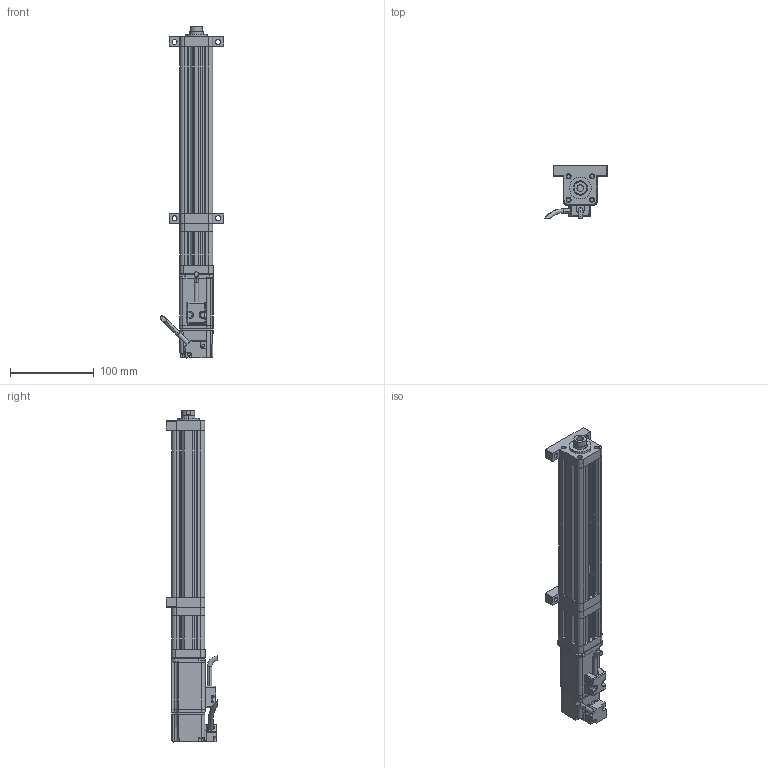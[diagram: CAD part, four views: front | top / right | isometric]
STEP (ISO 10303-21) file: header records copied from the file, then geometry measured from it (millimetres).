
FILE_DESCRIPTION (( 'STEP AP214' ), '1' );
FILE_NAME ('039-S150-D02-A-M2-C2-2.STEP', '2021-03-02T05:37:50', ( '' ), ( '' ), 'SwSTEP 2.0', 'SolidWorks 2018', '' );
FILE_SCHEMA (( 'AUTOMOTIVE_DESIGN' ));
Length unit declared in the file: millimetre
Products named in the file (9): CMC039-HDB; CMC039-AZB; CMC039-GT; CMC039-DJZ; CMC039-ZLLJB; ECMA-CX0401ES-40框號系列機種-100W低慣量系列; 039-S150-D02-A-M2-C2-2; CMC039-QDB; CMC039-DT
Assembly tree (8 placements, depth 2):
  039-S150-D02-A-M2-C2-2
    CMC039-GT
    CMC039-DT
    CMC039-ZLLJB
    CMC039-DJZ
    ECMA-CX0401ES-40框號系列機種-100W低慣量系列
    CMC039-AZB
    CMC039-HDB
    CMC039-QDB
Bounding box: 75.34 x 61.89 x 395.6 mm (x, y, z)
Volume: 436541.9 mm3; surface area: 139141.5 mm2
Topology: 8 solids, 16 shells, 735 faces, 1942 edges, 1223 vertices
Faces by surface type: cylinder 308, plane 306, bspline 84, cone 37
Entity records: 28972 total; most frequent: CARTESIAN_POINT 11393, ORIENTED_EDGE 3818, DIRECTION 3159, EDGE_CURVE 1909, VERTEX_POINT 1223, AXIS2_PLACEMENT_3D 1076, LINE 1007, VECTOR 1007
